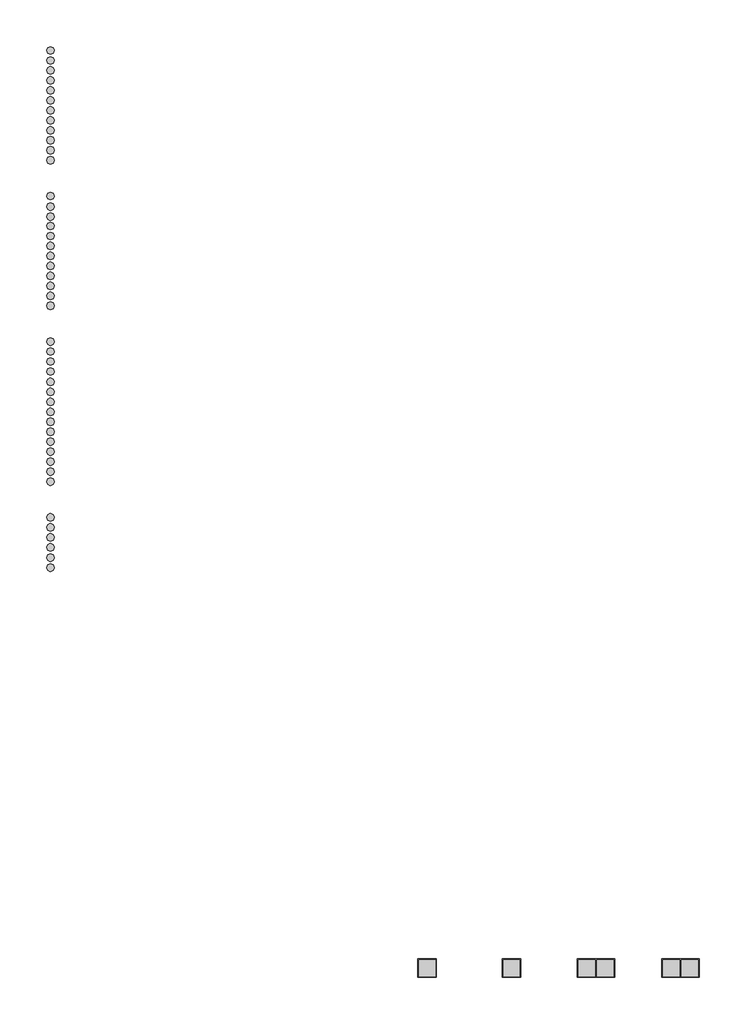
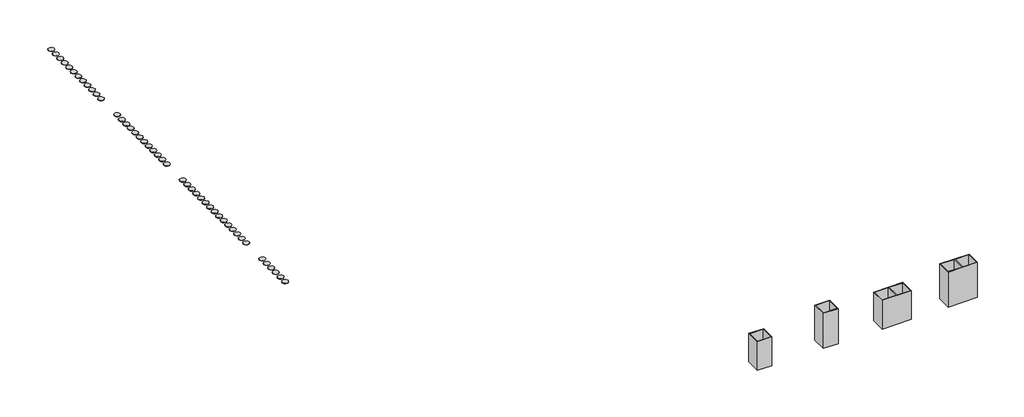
# One storey, incomplete: 45 proxies, 4 furniture elements.
"""IFC4 building model written with IfcOpenShell, lengths in millimetres."""

from ifc_helpers import new_model, si_unit, origin, place, context, project, spatial, transform, mapped, element, save
from components import materialmodel_materialmodel_25687ae3, double_high_back_2cc27aed, double_low_back_5ed0384f, single_high_back_76cfae69, single_low_back_34c9f7b2

model = new_model("IFC4")

# Units and contexts
model_context = context("Model", 3, world=origin())
ifc_project = project(units=[si_unit("LENGTHUNIT", "METRE", prefix="MILLI")], contexts=[model_context])

# Site, building, storey
site = spatial("IfcSite", under=ifc_project)
building = spatial("IfcBuilding", under=site)
storey = spatial("IfcBuildingStorey", under=building, Name="Lunea", Elevation=0.0)

# Proxies
placement = place(None, origin())
materialmodel_materialmodel_shape = materialmodel_materialmodel_25687ae3(model_context)
element("IfcBuildingElementProxy", 1, Name="MaterialModel : MaterialModel", ObjectType="MaterialModel : MaterialModel", at=placement, inside=storey, context=model_context, shape_type="MappedRepresentation", body=[
    mapped(materialmodel_materialmodel_shape, transform((-3694.5216285, 3524.8458889, 0.0), x_axis=(1.0, 0.0, 0.0), y_axis=(0.0, 1.0, 0.0), z_axis=(0.0, 0.0, 1.0))),
])
element("IfcBuildingElementProxy", 2, Name="MaterialModel : MaterialModel", ObjectType="MaterialModel : MaterialModel", at=placement, inside=storey, context=model_context, shape_type="MappedRepresentation", body=[
    mapped(materialmodel_materialmodel_shape, transform((-3694.5216285, 3728.0458889, 0.0), x_axis=(1.0, 0.0, 0.0), y_axis=(0.0, 1.0, 0.0), z_axis=(0.0, 0.0, 1.0))),
])
element("IfcBuildingElementProxy", 3, Name="MaterialModel : MaterialModel", ObjectType="MaterialModel : MaterialModel", at=placement, inside=storey, context=model_context, shape_type="MappedRepresentation", body=[
    mapped(materialmodel_materialmodel_shape, transform((-3694.5216285, 3321.6458889, 0.0), x_axis=(1.0, 0.0, 0.0), y_axis=(0.0, 1.0, 0.0), z_axis=(0.0, 0.0, 1.0))),
])
element("IfcBuildingElementProxy", 4, Name="MaterialModel : MaterialModel", ObjectType="MaterialModel : MaterialModel", at=placement, inside=storey, context=model_context, shape_type="MappedRepresentation", body=[
    mapped(materialmodel_materialmodel_shape, transform((-3694.5216285, 3118.4458889, 0.0), x_axis=(1.0, 0.0, 0.0), y_axis=(0.0, 1.0, 0.0), z_axis=(0.0, 0.0, 1.0))),
])
element("IfcBuildingElementProxy", 5, Name="MaterialModel : MaterialModel", ObjectType="MaterialModel : MaterialModel", at=placement, inside=storey, context=model_context, shape_type="MappedRepresentation", body=[
    mapped(materialmodel_materialmodel_shape, transform((-3694.5216285, 2915.2458889, 0.0), x_axis=(1.0, 0.0, 0.0), y_axis=(0.0, 1.0, 0.0), z_axis=(0.0, 0.0, 1.0))),
])
element("IfcBuildingElementProxy", 6, Name="MaterialModel : MaterialModel", ObjectType="MaterialModel : MaterialModel", at=placement, inside=storey, context=model_context, shape_type="MappedRepresentation", body=[
    mapped(materialmodel_materialmodel_shape, transform((-3694.5216285, 2712.0458889, 0.0), x_axis=(1.0, 0.0, 0.0), y_axis=(0.0, 1.0, 0.0), z_axis=(0.0, 0.0, 1.0))),
])
element("IfcBuildingElementProxy", 7, Name="MaterialModel : MaterialModel", ObjectType="MaterialModel : MaterialModel", at=placement, inside=storey, context=model_context, shape_type="MappedRepresentation", body=[
    mapped(materialmodel_materialmodel_shape, transform((-3694.5216285, 2508.8458889, 0.0), x_axis=(1.0, 0.0, 0.0), y_axis=(0.0, 1.0, 0.0), z_axis=(0.0, 0.0, 1.0))),
])
element("IfcBuildingElementProxy", 8, Name="MaterialModel : MaterialModel", ObjectType="MaterialModel : MaterialModel", at=placement, inside=storey, context=model_context, shape_type="MappedRepresentation", body=[
    mapped(materialmodel_materialmodel_shape, transform((-3694.5216285, 2305.6458889, 0.0), x_axis=(1.0, 0.0, 0.0), y_axis=(0.0, 1.0, 0.0), z_axis=(0.0, 0.0, 1.0))),
])
element("IfcBuildingElementProxy", 9, Name="MaterialModel : MaterialModel", ObjectType="MaterialModel : MaterialModel", at=placement, inside=storey, context=model_context, shape_type="MappedRepresentation", body=[
    mapped(materialmodel_materialmodel_shape, transform((-3694.5216285, 763.7451295, 0.0), x_axis=(1.0, 0.0, 0.0), y_axis=(0.0, 1.0, 0.0), z_axis=(0.0, 0.0, 1.0))),
])
element("IfcBuildingElementProxy", 10, Name="MaterialModel : MaterialModel", ObjectType="MaterialModel : MaterialModel", at=placement, inside=storey, context=model_context, shape_type="MappedRepresentation", body=[
    mapped(materialmodel_materialmodel_shape, transform((-3694.5216285, 548.1130258, 0.0), x_axis=(1.0, 0.0, 0.0), y_axis=(0.0, 1.0, 0.0), z_axis=(0.0, 0.0, 1.0))),
])
element("IfcBuildingElementProxy", 11, Name="MaterialModel : MaterialModel", ObjectType="MaterialModel : MaterialModel", at=placement, inside=storey, context=model_context, shape_type="MappedRepresentation", body=[
    mapped(materialmodel_materialmodel_shape, transform((-3694.5216285, 154.1451295, 0.0), x_axis=(1.0, 0.0, 0.0), y_axis=(0.0, 1.0, 0.0), z_axis=(0.0, 0.0, 1.0))),
])
element("IfcBuildingElementProxy", 12, Name="MaterialModel : MaterialModel", ObjectType="MaterialModel : MaterialModel", at=placement, inside=storey, context=model_context, shape_type="MappedRepresentation", body=[
    mapped(materialmodel_materialmodel_shape, transform((-3694.5216285, -455.4548705, 0.0), x_axis=(1.0, 0.0, 0.0), y_axis=(0.0, 1.0, 0.0), z_axis=(0.0, 0.0, 1.0))),
])
element("IfcBuildingElementProxy", 13, Name="MaterialModel : MaterialModel", ObjectType="MaterialModel : MaterialModel", at=placement, inside=storey, context=model_context, shape_type="MappedRepresentation", body=[
    mapped(materialmodel_materialmodel_shape, transform((-3694.5216285, -658.6548705, 0.0), x_axis=(1.0, 0.0, 0.0), y_axis=(0.0, 1.0, 0.0), z_axis=(0.0, 0.0, 1.0))),
])
element("IfcBuildingElementProxy", 14, Name="MaterialModel : MaterialModel", ObjectType="MaterialModel : MaterialModel", at=placement, inside=storey, context=model_context, shape_type="MappedRepresentation", body=[
    mapped(materialmodel_materialmodel_shape, transform((-3694.5216285, -861.8548705, 0.0), x_axis=(1.0, 0.0, 0.0), y_axis=(0.0, 1.0, 0.0), z_axis=(0.0, 0.0, 1.0))),
])
element("IfcBuildingElementProxy", 15, Name="MaterialModel : MaterialModel", ObjectType="MaterialModel : MaterialModel", at=placement, inside=storey, context=model_context, shape_type="MappedRepresentation", body=[
    mapped(materialmodel_materialmodel_shape, transform((-3694.5216285, -1065.0548705, 0.0), x_axis=(1.0, 0.0, 0.0), y_axis=(0.0, 1.0, 0.0), z_axis=(0.0, 0.0, 1.0))),
])
element("IfcBuildingElementProxy", 16, Name="MaterialModel : MaterialModel", ObjectType="MaterialModel : MaterialModel", at=placement, inside=storey, context=model_context, shape_type="MappedRepresentation", body=[
    mapped(materialmodel_materialmodel_shape, transform((-3694.5216285, -49.0548705, 0.0), x_axis=(1.0, 0.0, 0.0), y_axis=(0.0, 1.0, 0.0), z_axis=(0.0, 0.0, 1.0))),
])
element("IfcBuildingElementProxy", 17, Name="MaterialModel : MaterialModel", ObjectType="MaterialModel : MaterialModel", at=placement, inside=storey, context=model_context, shape_type="MappedRepresentation", body=[
    mapped(materialmodel_materialmodel_shape, transform((-3694.5216285, 344.9130258, 0.0), x_axis=(1.0, 0.0, 0.0), y_axis=(0.0, 1.0, 0.0), z_axis=(0.0, 0.0, 1.0))),
])
element("IfcBuildingElementProxy", 18, Name="MaterialModel : MaterialModel", ObjectType="MaterialModel : MaterialModel", at=placement, inside=storey, context=model_context, shape_type="MappedRepresentation", body=[
    mapped(materialmodel_materialmodel_shape, transform((-3694.5216285, -252.2548705, 0.0), x_axis=(1.0, 0.0, 0.0), y_axis=(0.0, 1.0, 0.0), z_axis=(0.0, 0.0, 1.0))),
])
element("IfcBuildingElementProxy", 19, Name="MaterialModel : MaterialModel", ObjectType="MaterialModel : MaterialModel", at=placement, inside=storey, context=model_context, shape_type="MappedRepresentation", body=[
    mapped(materialmodel_materialmodel_shape, transform((-3694.5216285, -1268.2548705, 0.0), x_axis=(1.0, 0.0, 0.0), y_axis=(0.0, 1.0, 0.0), z_axis=(0.0, 0.0, 1.0))),
])
element("IfcBuildingElementProxy", 20, Name="MaterialModel : MaterialModel", ObjectType="MaterialModel : MaterialModel", at=placement, inside=storey, context=model_context, shape_type="MappedRepresentation", body=[
    mapped(materialmodel_materialmodel_shape, transform((-3694.5216285, -1471.4548705, 0.0), x_axis=(1.0, 0.0, 0.0), y_axis=(0.0, 1.0, 0.0), z_axis=(0.0, 0.0, 1.0))),
])
element("IfcBuildingElementProxy", 21, Name="MaterialModel : MaterialModel", ObjectType="MaterialModel : MaterialModel", at=placement, inside=storey, context=model_context, shape_type="MappedRepresentation", body=[
    mapped(materialmodel_materialmodel_shape, transform((-3694.5216285, -3224.1556299, 0.0), x_axis=(1.0, 0.0, 0.0), y_axis=(0.0, 1.0, 0.0), z_axis=(0.0, 0.0, 1.0))),
])
element("IfcBuildingElementProxy", 22, Name="MaterialModel : MaterialModel", ObjectType="MaterialModel : MaterialModel", at=placement, inside=storey, context=model_context, shape_type="MappedRepresentation", body=[
    mapped(materialmodel_materialmodel_shape, transform((-3694.5216285, -6805.6563894, 0.0), x_axis=(1.0, 0.0, 0.0), y_axis=(0.0, 1.0, 0.0), z_axis=(0.0, 0.0, 1.0))),
])
element("IfcBuildingElementProxy", 23, Name="MaterialModel : MaterialModel", ObjectType="MaterialModel : MaterialModel", at=placement, inside=storey, context=model_context, shape_type="MappedRepresentation", body=[
    mapped(materialmodel_materialmodel_shape, transform((-3694.5216285, -3020.9556299, 0.0), x_axis=(1.0, 0.0, 0.0), y_axis=(0.0, 1.0, 0.0), z_axis=(0.0, 0.0, 1.0))),
])
element("IfcBuildingElementProxy", 24, Name="MaterialModel : MaterialModel", ObjectType="MaterialModel : MaterialModel", at=placement, inside=storey, context=model_context, shape_type="MappedRepresentation", body=[
    mapped(materialmodel_materialmodel_shape, transform((-3694.5216285, -6602.4563894, 0.0), x_axis=(1.0, 0.0, 0.0), y_axis=(0.0, 1.0, 0.0), z_axis=(0.0, 0.0, 1.0))),
])
element("IfcBuildingElementProxy", 25, Name="MaterialModel : MaterialModel", ObjectType="MaterialModel : MaterialModel", at=placement, inside=storey, context=model_context, shape_type="MappedRepresentation", body=[
    mapped(materialmodel_materialmodel_shape, transform((-3694.5216285, -2200.5556299, 0.0), x_axis=(1.0, 0.0, 0.0), y_axis=(0.0, 1.0, 0.0), z_axis=(0.0, 0.0, 1.0))),
])
element("IfcBuildingElementProxy", 26, Name="MaterialModel : MaterialModel", ObjectType="MaterialModel : MaterialModel", at=placement, inside=storey, context=model_context, shape_type="MappedRepresentation", body=[
    mapped(materialmodel_materialmodel_shape, transform((-3694.5216285, -5782.0563894, 0.0), x_axis=(1.0, 0.0, 0.0), y_axis=(0.0, 1.0, 0.0), z_axis=(0.0, 0.0, 1.0))),
])
element("IfcBuildingElementProxy", 27, Name="MaterialModel : MaterialModel", ObjectType="MaterialModel : MaterialModel", at=placement, inside=storey, context=model_context, shape_type="MappedRepresentation", body=[
    mapped(materialmodel_materialmodel_shape, transform((-3694.5216285, -2403.7556299, 0.0), x_axis=(1.0, 0.0, 0.0), y_axis=(0.0, 1.0, 0.0), z_axis=(0.0, 0.0, 1.0))),
])
element("IfcBuildingElementProxy", 28, Name="MaterialModel : MaterialModel", ObjectType="MaterialModel : MaterialModel", at=placement, inside=storey, context=model_context, shape_type="MappedRepresentation", body=[
    mapped(materialmodel_materialmodel_shape, transform((-3694.5216285, -5985.2563894, 0.0), x_axis=(1.0, 0.0, 0.0), y_axis=(0.0, 1.0, 0.0), z_axis=(0.0, 0.0, 1.0))),
])
element("IfcBuildingElementProxy", 29, Name="MaterialModel : MaterialModel", ObjectType="MaterialModel : MaterialModel", at=placement, inside=storey, context=model_context, shape_type="MappedRepresentation", body=[
    mapped(materialmodel_materialmodel_shape, transform((-3694.5216285, -2606.9556299, 0.0), x_axis=(1.0, 0.0, 0.0), y_axis=(0.0, 1.0, 0.0), z_axis=(0.0, 0.0, 1.0))),
])
element("IfcBuildingElementProxy", 30, Name="MaterialModel : MaterialModel", ObjectType="MaterialModel : MaterialModel", at=placement, inside=storey, context=model_context, shape_type="MappedRepresentation", body=[
    mapped(materialmodel_materialmodel_shape, transform((-3694.5216285, -6188.4563894, 0.0), x_axis=(1.0, 0.0, 0.0), y_axis=(0.0, 1.0, 0.0), z_axis=(0.0, 0.0, 1.0))),
])
element("IfcBuildingElementProxy", 31, Name="MaterialModel : MaterialModel", ObjectType="MaterialModel : MaterialModel", at=placement, inside=storey, context=model_context, shape_type="MappedRepresentation", body=[
    mapped(materialmodel_materialmodel_shape, transform((-3694.5216285, -2810.1556299, 0.0), x_axis=(1.0, 0.0, 0.0), y_axis=(0.0, 1.0, 0.0), z_axis=(0.0, 0.0, 1.0))),
])
element("IfcBuildingElementProxy", 32, Name="MaterialModel : MaterialModel", ObjectType="MaterialModel : MaterialModel", at=placement, inside=storey, context=model_context, shape_type="MappedRepresentation", body=[
    mapped(materialmodel_materialmodel_shape, transform((-3694.5216285, -6391.6563894, 0.0), x_axis=(1.0, 0.0, 0.0), y_axis=(0.0, 1.0, 0.0), z_axis=(0.0, 0.0, 1.0))),
])
element("IfcBuildingElementProxy", 33, Name="MaterialModel : MaterialModel", ObjectType="MaterialModel : MaterialModel", at=placement, inside=storey, context=model_context, shape_type="MappedRepresentation", body=[
    mapped(materialmodel_materialmodel_shape, transform((-3694.5216285, 2102.4458889, 0.0), x_axis=(1.0, 0.0, 0.0), y_axis=(0.0, 1.0, 0.0), z_axis=(0.0, 0.0, 1.0))),
])
element("IfcBuildingElementProxy", 34, Name="MaterialModel : MaterialModel", ObjectType="MaterialModel : MaterialModel", at=placement, inside=storey, context=model_context, shape_type="MappedRepresentation", body=[
    mapped(materialmodel_materialmodel_shape, transform((-3694.5216285, 1899.2458889, 0.0), x_axis=(1.0, 0.0, 0.0), y_axis=(0.0, 1.0, 0.0), z_axis=(0.0, 0.0, 1.0))),
])
element("IfcBuildingElementProxy", 35, Name="MaterialModel : MaterialModel", ObjectType="MaterialModel : MaterialModel", at=placement, inside=storey, context=model_context, shape_type="MappedRepresentation", body=[
    mapped(materialmodel_materialmodel_shape, transform((-3694.5216285, 1696.0458889, 0.0), x_axis=(1.0, 0.0, 0.0), y_axis=(0.0, 1.0, 0.0), z_axis=(0.0, 0.0, 1.0))),
])
element("IfcBuildingElementProxy", 36, Name="MaterialModel : MaterialModel", ObjectType="MaterialModel : MaterialModel", at=placement, inside=storey, context=model_context, shape_type="MappedRepresentation", body=[
    mapped(materialmodel_materialmodel_shape, transform((-3694.5216285, 1492.8458889, 0.0), x_axis=(1.0, 0.0, 0.0), y_axis=(0.0, 1.0, 0.0), z_axis=(0.0, 0.0, 1.0))),
])
element("IfcBuildingElementProxy", 37, Name="MaterialModel : MaterialModel", ObjectType="MaterialModel : MaterialModel", at=placement, inside=storey, context=model_context, shape_type="MappedRepresentation", body=[
    mapped(materialmodel_materialmodel_shape, transform((-3694.5216285, -3833.7556299, 0.0), x_axis=(1.0, 0.0, 0.0), y_axis=(0.0, 1.0, 0.0), z_axis=(0.0, 0.0, 1.0))),
])
element("IfcBuildingElementProxy", 38, Name="MaterialModel : MaterialModel", ObjectType="MaterialModel : MaterialModel", at=placement, inside=storey, context=model_context, shape_type="MappedRepresentation", body=[
    mapped(materialmodel_materialmodel_shape, transform((-3694.5216285, -3630.5556299, 0.0), x_axis=(1.0, 0.0, 0.0), y_axis=(0.0, 1.0, 0.0), z_axis=(0.0, 0.0, 1.0))),
])
element("IfcBuildingElementProxy", 39, Name="MaterialModel : MaterialModel", ObjectType="MaterialModel : MaterialModel", at=placement, inside=storey, context=model_context, shape_type="MappedRepresentation", body=[
    mapped(materialmodel_materialmodel_shape, transform((-3694.5216285, -4036.9556299, 0.0), x_axis=(1.0, 0.0, 0.0), y_axis=(0.0, 1.0, 0.0), z_axis=(0.0, 0.0, 1.0))),
])
element("IfcBuildingElementProxy", 40, Name="MaterialModel : MaterialModel", ObjectType="MaterialModel : MaterialModel", at=placement, inside=storey, context=model_context, shape_type="MappedRepresentation", body=[
    mapped(materialmodel_materialmodel_shape, transform((-3694.5216285, -3427.3556299, 0.0), x_axis=(1.0, 0.0, 0.0), y_axis=(0.0, 1.0, 0.0), z_axis=(0.0, 0.0, 1.0))),
])
element("IfcBuildingElementProxy", 41, Name="MaterialModel : MaterialModel", ObjectType="MaterialModel : MaterialModel", at=placement, inside=storey, context=model_context, shape_type="MappedRepresentation", body=[
    mapped(materialmodel_materialmodel_shape, transform((-3694.5216285, -4443.3556299, 0.0), x_axis=(1.0, 0.0, 0.0), y_axis=(0.0, 1.0, 0.0), z_axis=(0.0, 0.0, 1.0))),
])
element("IfcBuildingElementProxy", 42, Name="MaterialModel : MaterialModel", ObjectType="MaterialModel : MaterialModel", at=placement, inside=storey, context=model_context, shape_type="MappedRepresentation", body=[
    mapped(materialmodel_materialmodel_shape, transform((-3694.5216285, -4240.1556299, 0.0), x_axis=(1.0, 0.0, 0.0), y_axis=(0.0, 1.0, 0.0), z_axis=(0.0, 0.0, 1.0))),
])
element("IfcBuildingElementProxy", 43, Name="MaterialModel : MaterialModel", ObjectType="MaterialModel : MaterialModel", at=placement, inside=storey, context=model_context, shape_type="MappedRepresentation", body=[
    mapped(materialmodel_materialmodel_shape, transform((-3694.5216285, -4849.7556299, 0.0), x_axis=(1.0, 0.0, 0.0), y_axis=(0.0, 1.0, 0.0), z_axis=(0.0, 0.0, 1.0))),
])
element("IfcBuildingElementProxy", 44, Name="MaterialModel : MaterialModel", ObjectType="MaterialModel : MaterialModel", at=placement, inside=storey, context=model_context, shape_type="MappedRepresentation", body=[
    mapped(materialmodel_materialmodel_shape, transform((-3694.5216285, -4646.5556299, 0.0), x_axis=(1.0, 0.0, 0.0), y_axis=(0.0, 1.0, 0.0), z_axis=(0.0, 0.0, 1.0))),
])
element("IfcBuildingElementProxy", 45, Name="MaterialModel : MaterialModel", ObjectType="MaterialModel : MaterialModel", at=placement, inside=storey, context=model_context, shape_type="MappedRepresentation", body=[
    mapped(materialmodel_materialmodel_shape, transform((-3694.5216285, -5052.9556299, 0.0), x_axis=(1.0, 0.0, 0.0), y_axis=(0.0, 1.0, 0.0), z_axis=(0.0, 0.0, 1.0))),
])

# Furniture
double_high_back_shape = double_high_back_2cc27aed(model_context)
element("IfcFurniture", 46, ObjectType="Profim - Lunea - Planter : Double High Back", at=placement, inside=storey, context=model_context, shape_type="MappedRepresentation", body=[
    mapped(double_high_back_shape, transform((9136.07237, -14960.6314237, 0.0), x_axis=(1.0, 0.0, 0.0), y_axis=(0.0, 1.0, 0.0), z_axis=(0.0, 0.0, 1.0))),
])
double_low_back_shape = double_low_back_5ed0384f(model_context)
element("IfcFurniture", 47, ObjectType="Profim - Lunea - Planter : Double Low Back", at=placement, inside=storey, context=model_context, shape_type="MappedRepresentation", body=[
    mapped(double_low_back_shape, transform((7416.1295128, -14960.6314237, 0.0), x_axis=(1.0, 0.0, 0.0), y_axis=(0.0, 1.0, 0.0), z_axis=(0.0, 0.0, 1.0))),
])
single_high_back_shape = single_high_back_76cfae69(model_context)
element("IfcFurniture", 48, ObjectType="Profim - Lunea - Planter : Single High Back", at=placement, inside=storey, context=model_context, shape_type="MappedRepresentation", body=[
    mapped(single_high_back_shape, transform((5696.1866557, -14960.6314237, 0.0), x_axis=(1.0, 0.0, 0.0), y_axis=(0.0, 1.0, 0.0), z_axis=(0.0, 0.0, 1.0))),
])
single_low_back_shape = single_low_back_34c9f7b2(model_context)
element("IfcFurniture", 49, ObjectType="Profim - Lunea - Planter : Single Low Back", at=placement, inside=storey, context=model_context, shape_type="MappedRepresentation", body=[
    mapped(single_low_back_shape, transform((3976.2437985, -14960.6314237, 0.0), x_axis=(1.0, 0.0, 0.0), y_axis=(0.0, 1.0, 0.0), z_axis=(0.0, 0.0, 1.0))),
])

save(model, "model.ifc")
